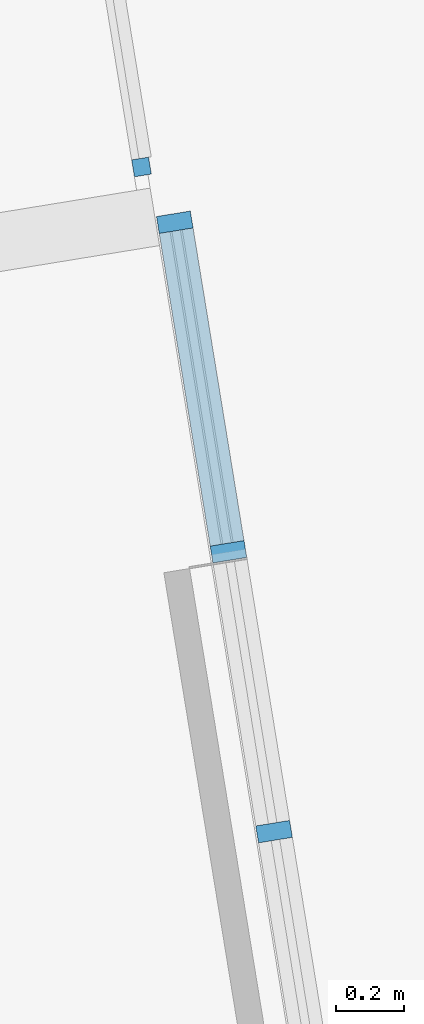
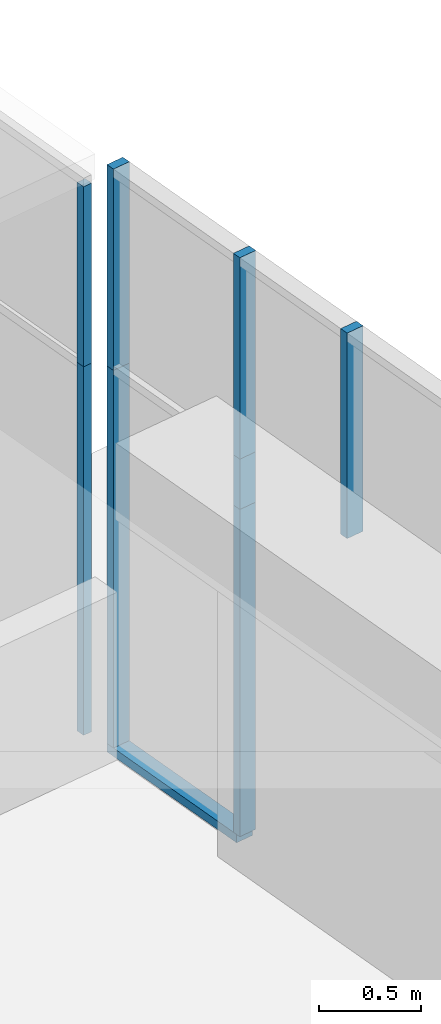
# One storey, part 6 of 13: 9 members, 2 elements without a shape of their own.
"""IFC2X3 building model written with IfcOpenShell, lengths in millimetres."""

from ifc_helpers import new_model, entity, si_unit, converted_unit, derived_unit, direction, frame, frame_2d, origin, origin_with_axes, origin_2d_with_axis, place, context, subcontext, project, spatial, rectangle, extrude, source, transform, mapped, material, type_object, element, aggregate, save


model = new_model("IFC2X3")

# Units and contexts
plan_context = context("Plan", 3, precision=1e-05, world=origin_with_axes())
model_context = context("Model", 3, precision=0.01, world=origin(), true_north=direction((6.12323399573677e-17, 1.0)))
body_context = subcontext(model_context, "Body", "Model", "MODEL_VIEW")
ifc_project = project(units=[converted_unit("PLANEANGLEUNIT", "DEGREE", entity("IfcPositiveLengthMeasure", 0.0174532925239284), si_unit("PLANEANGLEUNIT", "RADIAN"), dimensions=[0, 0, 0, 0, 0, 0, 0]), si_unit("AREAUNIT", "SQUARE_METRE"), si_unit("LENGTHUNIT", "METRE", prefix="MILLI"), si_unit("MASSUNIT", "GRAM", prefix="KILO"), si_unit("POWERUNIT", "WATT"), si_unit("PRESSUREUNIT", "PASCAL", prefix="KILO"), si_unit("FORCEUNIT", "NEWTON", prefix="KILO"), si_unit("ELECTRICVOLTAGEUNIT", "VOLT"), si_unit("ELECTRICCURRENTUNIT", "AMPERE"), si_unit("THERMODYNAMICTEMPERATUREUNIT", "DEGREE_CELSIUS"), si_unit("TIMEUNIT", "SECOND"), si_unit("VOLUMEUNIT", "CUBIC_METRE"), derived_unit("LINEARVELOCITYUNIT", [(si_unit("LENGTHUNIT", "METRE"), 1), (si_unit("TIMEUNIT", "SECOND"), -1)]), derived_unit("VOLUMETRICFLOWRATEUNIT", [(si_unit("VOLUMEUNIT", "CUBIC_METRE"), 1), (si_unit("TIMEUNIT", "SECOND"), -1)]), derived_unit("THERMALTRANSMITTANCEUNIT", [(si_unit("POWERUNIT", "WATT"), 1), (si_unit("THERMODYNAMICTEMPERATUREUNIT", "KELVIN"), -1), (si_unit("AREAUNIT", "SQUARE_METRE"), -1)]), derived_unit("SOUNDPRESSUREUNIT", [(si_unit("PRESSUREUNIT", "PASCAL"), 1)])], contexts=[model_context, plan_context])

# Site, building, storey
site_placement = place(None, frame((-305029.896016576, -232111.759730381, 0.0), z_axis=(0.0, 0.0, 1.0), x_axis=(-0.160806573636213, 0.986985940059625, 0.0)))
site = spatial("IfcSite", under=ifc_project, at=site_placement, Name="Default", CompositionType="ELEMENT")
building_placement = place(site_placement, frame((0.0, 0.0, 0.0), z_axis=(0.0, 0.0, 1.0), x_axis=(1.0, -2.77555756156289e-17, 0.0)))
building = spatial("IfcBuilding", under=site, at=building_placement, Name="br001-a-200-1-0001", CompositionType="ELEMENT")
storey_placement = place(building_placement, frame((0.0, 0.0, 51360.0000000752), z_axis=(0.0, 0.0, 1.0), x_axis=(1.0, -2.77555756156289e-17, 0.0)))
storey = spatial("IfcBuildingStorey", under=building, at=storey_placement, Name="H01-Nivå D+0,36", CompositionType="ELEMENT", Elevation=51360.0000000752)

# Curtain wall, members
curtain_wall_type_1 = type_object("IfcCurtainWallType", Name="Curtain Wall:NSW Innvendig glassfelt", PredefinedType="NOTDEFINED")
curtain_wall_1_placement = place(storey_placement, frame((0.0, 0.0, -51360.0000000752), z_axis=(0.0, 0.0, 1.0), x_axis=(1.0, -2.77555756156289e-17, 0.0)))
curtain_wall_1 = element("IfcCurtainWall", 1, at=curtain_wall_1_placement, inside=storey, type_object=curtain_wall_type_1, Name="Curtain Wall:NSW Innvendig glassfelt", ObjectType="Curtain Wall:NSW Innvendig glassfelt")
ifc_material_1 = material(Name="Laminate - Ivory, Matte")
member_type_1 = type_object("IfcMemberType", Name="Rectangular Mullion:NSW Innvendig spross 50x100 mm", PredefinedType="MULLION", material=ifc_material_1)
shared_shape_1 = source(origin(), body_context, "Body", "SweptSolid", [
    extrude(rectangle(XDim=50.0, YDim=100.0, at=origin_2d_with_axis()), frame((-25.0, 0.0, -2250.0), z_axis=(0.0, 0.0, 1.0), x_axis=(-1.0, 0.0, 0.0)), (0.0, 0.0, 1.0), 2250.0),
])
member_1_placement = place(curtain_wall_1_placement, frame((1158388.59858442, -711141.378367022, 51410.0), z_axis=(0.0, 0.0, -1.0), x_axis=(1.0, -2.77555756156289e-17, 0.0)))
member_1 = element("IfcMember", 2, at=member_1_placement, type_object=member_type_1, material=ifc_material_1, Name="Rectangular Mullion:NSW Innvendig spross 50x100 mm", ObjectType="Rectangular Mullion:NSW Innvendig spross 50x100 mm", context=body_context, shape_type="MappedRepresentation", body=[
    mapped(shared_shape_1, transform((0.0, 0.0, 0.0), scale=1.0)),
])
member_type_2 = type_object("IfcMemberType", Name="Rectangular Mullion:NSW Innvendig spross 50x100 mm", PredefinedType="MULLION", material=ifc_material_1)
shared_shape_2 = source(origin(), body_context, "Body", "SweptSolid", [
    extrude(rectangle(XDim=50.0, YDim=100.0, at=frame_2d((0.0, -7.105427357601e-15), x_axis=(1.0, 0.0))), frame((0.0, 0.0, -2250.0), z_axis=(0.0, 0.0, 1.0), x_axis=(-1.0, 0.0, 0.0)), (0.0, 0.0, 1.0), 2250.0),
])
member_2_placement = place(curtain_wall_1_placement, frame((1157388.59858442, -711141.378367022, 51410.0), z_axis=(0.0, 0.0, -1.0), x_axis=(1.0, -2.77555756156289e-17, 0.0)))
member_2 = element("IfcMember", 3, at=member_2_placement, type_object=member_type_2, material=ifc_material_1, Name="Rectangular Mullion:NSW Innvendig spross 50x100 mm", ObjectType="Rectangular Mullion:NSW Innvendig spross 50x100 mm", context=body_context, shape_type="MappedRepresentation", body=[
    mapped(shared_shape_2, transform((0.0, 0.0, 0.0), scale=1.0)),
])
member_type_3 = type_object("IfcMemberType", Name="Rectangular Mullion:NSW Innvendig spross 50x100 mm", PredefinedType="MULLION", material=ifc_material_1)
shared_shape_3 = source(origin(), body_context, "Body", "SweptSolid", [
    extrude(rectangle(XDim=50.0, YDim=100.0, at=origin_2d_with_axis()), frame((-25.0, 0.0, -1200.0), z_axis=(0.0, 0.0, 1.0), x_axis=(-1.0, 0.0, 0.0)), (0.0, 0.0, 1.0), 1200.0),
])
member_3_placement = place(curtain_wall_1_placement, frame((1158388.59858442, -711141.378367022, 53660.0), z_axis=(0.0, 0.0, -1.0), x_axis=(1.0, -2.77555756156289e-17, 0.0)))
member_3 = element("IfcMember", 4, at=member_3_placement, type_object=member_type_3, material=ifc_material_1, Name="Rectangular Mullion:NSW Innvendig spross 50x100 mm", ObjectType="Rectangular Mullion:NSW Innvendig spross 50x100 mm", context=body_context, shape_type="MappedRepresentation", body=[
    mapped(shared_shape_3, transform((0.0, 0.0, 0.0), scale=1.0)),
])
member_type_4 = type_object("IfcMemberType", Name="Rectangular Mullion:NSW Innvendig spross 50x100 mm", PredefinedType="MULLION", material=ifc_material_1)
shared_shape_4 = source(origin(), body_context, "Body", "SweptSolid", [
    extrude(rectangle(XDim=50.0, YDim=100.0, at=frame_2d((0.0, -7.105427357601e-15), x_axis=(1.0, 0.0))), frame((0.0, 0.0, -1200.0), z_axis=(0.0, 0.0, 1.0), x_axis=(-1.0, 0.0, 0.0)), (0.0, 0.0, 1.0), 1200.0),
])
member_4_placement = place(curtain_wall_1_placement, frame((1157388.59858442, -711141.378367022, 53660.0), z_axis=(0.0, 0.0, -1.0), x_axis=(1.0, -2.77555756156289e-17, 0.0)))
member_4 = element("IfcMember", 5, at=member_4_placement, type_object=member_type_4, material=ifc_material_1, Name="Rectangular Mullion:NSW Innvendig spross 50x100 mm", ObjectType="Rectangular Mullion:NSW Innvendig spross 50x100 mm", context=body_context, shape_type="MappedRepresentation", body=[
    mapped(shared_shape_4, transform((0.0, 0.0, 0.0), scale=1.0)),
])
member_type_5 = type_object("IfcMemberType", Name="Rectangular Mullion:NSW Innvendig spross 50x100 mm", PredefinedType="MULLION", material=ifc_material_1)
shared_shape_5 = source(origin(), body_context, "Body", "SweptSolid", [
    extrude(rectangle(XDim=50.0, YDim=100.0, at=frame_2d((0.0, -7.105427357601e-15), x_axis=(1.0, 0.0))), frame((0.0, 0.0, -1225.0), z_axis=(0.0, 0.0, 1.0), x_axis=(-1.0, 0.0, 0.0)), (0.0, 0.0, 1.0), 1225.0),
])
member_5_placement = place(curtain_wall_1_placement, frame((1156560.59858442, -711141.378367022, 53635.0), z_axis=(0.0, 0.0, -1.0), x_axis=(1.0, -2.77555756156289e-17, 0.0)))
member_5 = element("IfcMember", 6, at=member_5_placement, type_object=member_type_5, material=ifc_material_1, Name="Rectangular Mullion:NSW Innvendig spross 50x100 mm", ObjectType="Rectangular Mullion:NSW Innvendig spross 50x100 mm", context=body_context, shape_type="MappedRepresentation", body=[
    mapped(shared_shape_5, transform((0.0, 0.0, 0.0), scale=1.0)),
])
member_type_6 = type_object("IfcMemberType", Name="Rectangular Mullion:NSW Innvendig spross 50x100 mm", PredefinedType="MULLION", material=ifc_material_1)
shared_shape_6 = source(origin(), body_context, "Body", "SweptSolid", [
    extrude(rectangle(XDim=50.0, YDim=100.0, at=origin_2d_with_axis()), frame((-25.0, 0.0, -1950.00000007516), z_axis=(0.0, 0.0, 1.0), x_axis=(-1.0, 0.0, 0.0)), (0.0, 0.0, 1.0), 1950.00000007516),
])
member_6_placement = place(curtain_wall_1_placement, frame((1157363.59858442, -711141.378367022, 53360.0000000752), z_axis=(0.0, 0.0, 1.0), x_axis=(-1.0, 2.77555756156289e-17, 0.0)))
member_6 = element("IfcMember", 7, at=member_6_placement, type_object=member_type_6, material=ifc_material_1, Name="Rectangular Mullion:NSW Innvendig spross 50x100 mm", ObjectType="Rectangular Mullion:NSW Innvendig spross 50x100 mm", context=body_context, shape_type="MappedRepresentation", body=[
    mapped(shared_shape_6, transform((0.0, 0.0, 0.0), scale=1.0)),
])
member_type_7 = type_object("IfcMemberType", Name="Rectangular Mullion:NSW Innvendig spross 50x100 mm", PredefinedType="MULLION", material=ifc_material_1)
shared_shape_7 = source(origin(), body_context, "Body", "SweptSolid", [
    extrude(rectangle(XDim=50.0, YDim=100.0, at=frame_2d((0.0, 3.5527136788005e-15), x_axis=(1.0, 0.0))), frame((-25.0, 0.0, -1000.0), z_axis=(0.0, 0.0, 1.0), x_axis=(-1.0, 0.0, 0.0)), (0.0, 0.0, 1.0), 1000.0000000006),
])
member_7_placement = place(curtain_wall_1_placement, frame((1157388.59858442, -711141.378367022, 51360.0), z_axis=(-1.0, 2.77555756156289e-17, 0.0), x_axis=(0.0, 0.0, -1.0)))
member_7 = element("IfcMember", 8, at=member_7_placement, type_object=member_type_7, material=ifc_material_1, Name="Rectangular Mullion:NSW Innvendig spross 50x100 mm", ObjectType="Rectangular Mullion:NSW Innvendig spross 50x100 mm", context=body_context, shape_type="MappedRepresentation", body=[
    mapped(shared_shape_7, transform((0.0, 0.0, 0.0), scale=1.0)),
])
aggregate(curtain_wall_1, [member_1, member_2, member_3, member_4, member_5, member_6, member_7])

curtain_wall_type_2 = type_object("IfcCurtainWallType", Name="Curtain Wall:A243 Innvendig glassvegg", PredefinedType="NOTDEFINED")
curtain_wall_2_placement = place(storey_placement, frame((0.0, 0.0, -51360.0000000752), z_axis=(0.0, 0.0, 1.0), x_axis=(1.0, -2.77555756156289e-17, 0.0)))
curtain_wall_2 = element("IfcCurtainWall", 9, at=curtain_wall_2_placement, inside=storey, type_object=curtain_wall_type_2, Name="Curtain Wall:A243 Innvendig glassvegg", ObjectType="Curtain Wall:A243 Innvendig glassvegg")
ifc_material_2 = material(Name="Metal - Aluminium")
member_type_8 = type_object("IfcMemberType", Name="Rectangular Mullion:NSW 50x50 Add on", PredefinedType="MULLION", material=ifc_material_2)
shared_shape_8 = source(origin(), body_context, "Body", "SweptSolid", [
    extrude(rectangle(XDim=50.0, YDim=50.0, at=origin_2d_with_axis()), frame((-25.0, 15.0, -1073.3333333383), z_axis=(0.0, 0.0, 1.0), x_axis=(-1.0, 0.0, 0.0)), (0.0, 0.0, 1.0), 1073.3333333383),
])
member_8_placement = place(curtain_wall_2_placement, frame((1158513.59858442, -711086.378367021, 53606.6666667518), z_axis=(0.0, 0.0, -1.0), x_axis=(-1.0, 2.77555756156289e-17, 0.0)))
member_8 = element("IfcMember", 10, at=member_8_placement, type_object=member_type_8, material=ifc_material_2, Name="Rectangular Mullion:NSW 50x50 Add on", ObjectType="Rectangular Mullion:NSW 50x50 Add on", context=body_context, shape_type="MappedRepresentation", body=[
    mapped(shared_shape_8, transform((0.0, 0.0, 0.0), scale=1.0)),
])
member_type_9 = type_object("IfcMemberType", Name="Rectangular Mullion:NSW 50x50 Add on", PredefinedType="MULLION", material=ifc_material_2)
shared_shape_9 = source(origin(), body_context, "Body", "SweptSolid", [
    extrude(rectangle(XDim=50.0, YDim=50.0, at=origin_2d_with_axis()), frame((-25.0, 15.0, -2196.66666667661), z_axis=(0.0, 0.0, 1.0), x_axis=(-1.0, 0.0, 0.0)), (0.0, 0.0, 1.0), 2196.6666666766),
])
member_9_placement = place(curtain_wall_2_placement, frame((1158513.59858442, -711086.378367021, 51410.0000000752), z_axis=(0.0, 0.0, -1.0), x_axis=(-1.0, 2.77555756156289e-17, 0.0)))
member_9 = element("IfcMember", 11, at=member_9_placement, type_object=member_type_9, material=ifc_material_2, Name="Rectangular Mullion:NSW 50x50 Add on", ObjectType="Rectangular Mullion:NSW 50x50 Add on", context=body_context, shape_type="MappedRepresentation", body=[
    mapped(shared_shape_9, transform((0.0, 0.0, 0.0), scale=1.0)),
])
aggregate(curtain_wall_2, [member_9, member_8])

save(model, "model.ifc")
